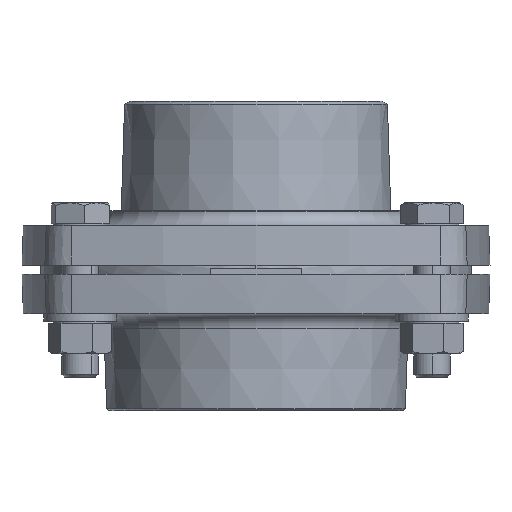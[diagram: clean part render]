
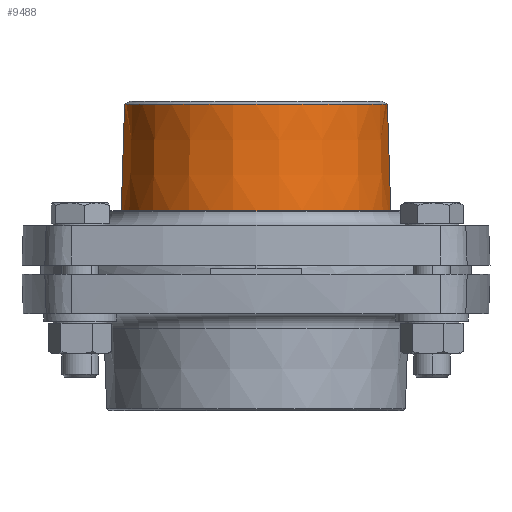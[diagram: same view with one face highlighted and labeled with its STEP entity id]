
A CAD part, front view. The second image highlights one B-rep face of the part: STEP entity #9488.
In plain terms, the highlighted conical face has half-angle 1.788 degrees and reference radius 44.421 mm.
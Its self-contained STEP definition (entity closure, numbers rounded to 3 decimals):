
#492 = ORIENTED_EDGE ( 'NONE', *, *, #3825, .F. ) ;
#536 = VERTEX_POINT ( 'NONE', #9467 ) ;
#1199 = CARTESIAN_POINT ( 'NONE',  ( 2.971, -1.472, 48.294 ) ) ;
#2192 = VERTEX_POINT ( 'NONE', #7406 ) ;
#2305 = LINE ( 'NONE', #4633, #11617 ) ;
#2455 = ORIENTED_EDGE ( 'NONE', *, *, #3000, .T. ) ;
#2484 = VECTOR ( 'NONE', #11607, 1000. ) ;
#2771 = LINE ( 'NONE', #8028, #2484 ) ;
#2908 = EDGE_CURVE ( 'NONE', #2192, #536, #2771, .T. ) ;
#3000 = EDGE_CURVE ( 'NONE', #8673, #2192, #7709, .T. ) ;
#3730 = DIRECTION ( 'NONE',  ( 0., 0., -1. ) ) ;
#3825 = EDGE_CURVE ( 'NONE', #8673, #5752, #2305, .T. ) ;
#3935 = CARTESIAN_POINT ( 'NONE',  ( -40.357, -1.472, 13.293 ) ) ;
#4633 = CARTESIAN_POINT ( 'NONE',  ( 4.064, -1.472, 13.293 ) ) ;
#4700 = DIRECTION ( 'NONE',  ( 0., 0., -1. ) ) ;
#4742 = CARTESIAN_POINT ( 'NONE',  ( -40.357, -1.472, 13.293 ) ) ;
#4779 = CARTESIAN_POINT ( 'NONE',  ( 4.064, -1.472, 13.293 ) ) ;
#4794 = DIRECTION ( 'NONE',  ( -1., 0., 0. ) ) ;
#4841 = DIRECTION ( 'NONE',  ( -1., 0., 0. ) ) ;
#5562 = DIRECTION ( 'NONE',  ( 0.031, 0., -1. ) ) ;
#5627 = AXIS2_PLACEMENT_3D ( 'NONE', #3935, #10238, #4841 ) ;
#5752 = VERTEX_POINT ( 'NONE', #4779 ) ;
#5888 = EDGE_CURVE ( 'NONE', #5752, #536, #6773, .T. ) ;
#6616 = FACE_OUTER_BOUND ( 'NONE', #7983, .T. ) ;
#6773 = CIRCLE ( 'NONE', #5627, 44.421 ) ;
#7406 = CARTESIAN_POINT ( 'NONE',  ( -83.685, -1.472, 48.294 ) ) ;
#7441 = AXIS2_PLACEMENT_3D ( 'NONE', #9093, #3730, #10014 ) ;
#7598 = CONICAL_SURFACE ( 'NONE', #8211, 44.421, 0.031 ) ;
#7709 = CIRCLE ( 'NONE', #7441, 43.328 ) ;
#7983 = EDGE_LOOP ( 'NONE', ( #492, #2455, #11522, #8827 ) ) ;
#8028 = CARTESIAN_POINT ( 'NONE',  ( -84.778, -1.472, 13.293 ) ) ;
#8211 = AXIS2_PLACEMENT_3D ( 'NONE', #4742, #4700, #4794 ) ;
#8673 = VERTEX_POINT ( 'NONE', #1199 ) ;
#8827 = ORIENTED_EDGE ( 'NONE', *, *, #5888, .F. ) ;
#9093 = CARTESIAN_POINT ( 'NONE',  ( -40.357, -1.472, 48.294 ) ) ;
#9467 = CARTESIAN_POINT ( 'NONE',  ( -84.778, -1.472, 13.293 ) ) ;
#9488 = ADVANCED_FACE ( 'NONE', ( #6616 ), #7598, .T. ) ;
#10014 = DIRECTION ( 'NONE',  ( 1., 0., 0. ) ) ;
#10238 = DIRECTION ( 'NONE',  ( 0., 0., -1. ) ) ;
#11522 = ORIENTED_EDGE ( 'NONE', *, *, #2908, .T. ) ;
#11607 = DIRECTION ( 'NONE',  ( -0.031, 0., -1. ) ) ;
#11617 = VECTOR ( 'NONE', #5562, 1000. ) ;
